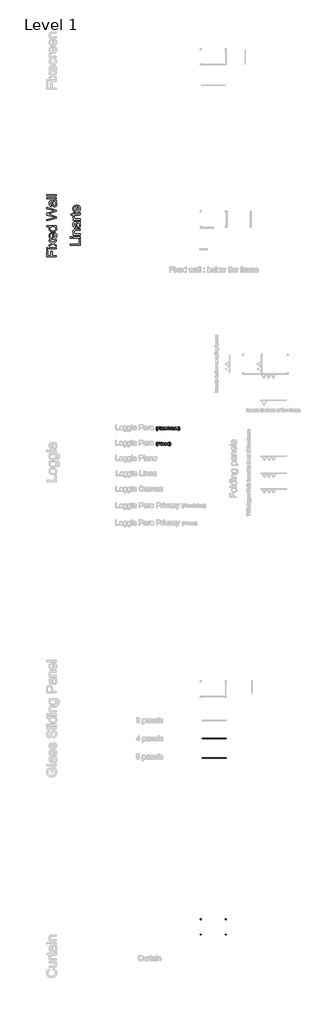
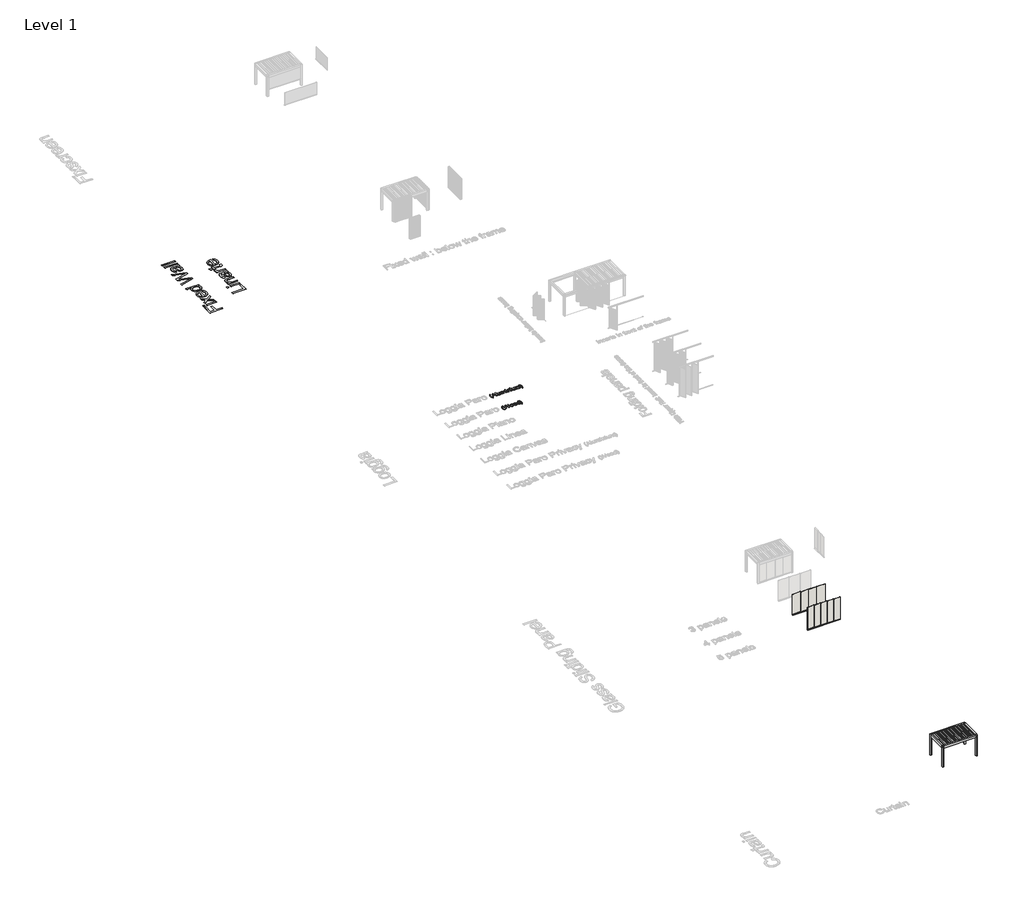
# One storey, part 14 of 80: 4 proxies, 2 walls.
"""IFC4 building model written with IfcOpenShell, lengths in millimetres."""

from ifc_helpers import new_model, si_unit, origin, origin_with_axes, place, context, project, spatial, polyline, outline, extrude, transform, mapped, element, save
from components import generic_models_e44263f4, wall_eb70c0bf, wall_4dabd9f5

model = new_model("IFC4")

# Units and contexts
model_context = context("Model", 3, world=origin())
ifc_project = project(units=[si_unit("LENGTHUNIT", "METRE", prefix="MILLI")], contexts=[model_context])

# Site, building, storey
site = spatial("IfcSite", under=ifc_project)
building = spatial("IfcBuilding", under=site)
storey = spatial("IfcBuildingStorey", under=building, Name="Level 1", Elevation=0.0)

# Proxies
placement = place(None, origin())
generic_models_shape = generic_models_e44263f4(model_context)
element("IfcBuildingElementProxy", 1, Name="Renson_Amani_Patio_Cover : Renson_Amani_Patio_Cover", ObjectType="Renson_Amani_Patio_Cover : Renson_Amani_Patio_Cover", at=placement, inside=storey, context=model_context, shape_type="MappedRepresentation", body=[
    mapped(generic_models_shape, transform((384965.9810446, -126169.1002025, 0.0), x_axis=(1.0, 0.0, 0.0), y_axis=(0.0, 1.0, 0.0), z_axis=(0.0, 0.0, 1.0))),
])
element("IfcBuildingElementProxy", 2, Name="1500mm", ObjectType="1500mm", at=placement, inside=storey, context=model_context, shape_type="SweptSolid", body=[
    extrude(outline(polyline([(360838.2731482, -23049.4947706), (359331.428496, -23049.4947706), (359331.428496, -22037.0835199), (359519.7840775, -22037.0835199), (359519.7840775, -22861.1391891), (359967.1285837, -22861.1391891), (359967.1285837, -22154.8057584), (360155.4841652, -22154.8057584), (360155.4841652, -22861.1391891), (360838.2731482, -22861.1391891), (360838.2731482, -23049.4947706)])), origin_with_axes(), (0.0, 0.0, 1.0), 5.0),
    extrude(outline(polyline([(359519.7840775, -21801.639043), (359331.428496, -21801.639043), (359331.428496, -21613.2834615), (359519.7840775, -21613.2834615), (359519.7840775, -21801.639043)])), origin_with_axes(), (0.0, 0.0, 1.0), 5.0),
    extrude(outline(polyline([(360838.2731482, -21801.639043), (359731.6841067, -21801.639043), (359731.6841067, -21613.2834615), (360838.2731482, -21613.2834615), (360838.2731482, -21801.639043)])), origin_with_axes(), (0.0, 0.0, 1.0), 5.0),
    extrude(outline(polyline([(360838.2731482, -21448.4723276), (360282.0355715, -21046.0094249), (359731.6841067, -21424.9278799), (359731.6841067, -21198.3125709), (359996.5591433, -21015.4752193), (360121.6390216, -20930.1265964), (360019.367827, -20856.1823154), (359731.6841067, -20647.9611061), (359731.6841067, -20421.3457971), (360282.0355715, -20819.3941159), (360838.2731482, -20436.0610769), (360838.2731482, -20662.6763859), (360503.8684146, -20893.3383969), (360442.8000034, -20935.6448264), (360838.2731482, -21221.8570186), (360838.2731482, -21448.4723276)])), origin_with_axes(), (0.0, 0.0, 1.0), 5.0),
    extrude(outline(polyline([(360508.6508806, -19496.4904612), (360532.1953282, -19311.8136997), (360606.1626019, -19340.129117), (360639.8525452, -19358.0030086), (360671.3466929, -19378.3543555), (360700.6450449, -19401.1831578), (360727.7476013, -19426.4894153), (360752.654362, -19454.2731282), (360775.3653271, -19484.5342964), (360795.6275776, -19517.1234678), (360813.1881947, -19551.8911904), (360828.0471784, -19588.8374643), (360840.2045287, -19627.9622893), (360856.4143291, -19712.7475928), (360861.8175959, -19806.2471012), (360859.4867186, -19866.2750961), (360852.4940866, -19923.1186125), (360840.8397, -19976.7776504), (360824.5235587, -20027.2522098), (360803.5456627, -20074.5422906), (360777.9060121, -20118.6478929), (360747.6046068, -20159.5690168), (360712.6414469, -20197.305662), (360673.4706366, -20231.1910427), (360630.5462804, -20260.5583726), (360583.8683782, -20285.4076517), (360533.43693, -20305.7388801), (360479.2519358, -20321.5520578), (360421.3133956, -20332.8471846), (360359.6213095, -20339.6242608), (360294.1756774, -20341.8832861), (360226.5026347, -20339.6012681), (360162.726842, -20332.7552141), (360102.8482991, -20321.3451241), (360046.8670061, -20305.3709981), (359994.782963, -20284.8328361), (359946.5961698, -20259.7306381), (359902.3066265, -20230.0644041), (359861.914333, -20195.8341341), (359825.8733938, -20157.9652812), (359794.6379132, -20117.3832986), (359768.2078911, -20074.0881863), (359746.5833275, -20028.0799443), (359729.7642226, -19979.3585725), (359717.7505762, -19927.9240711), (359710.5423883, -19873.7764399), (359708.1396591, -19816.915679), (359710.5366402, -19761.9144467), (359717.7275836, -19709.4826401), (359729.7124892, -19659.6202594), (359746.491357, -19612.3273045), (359768.0641872, -19567.6037753), (359794.4309795, -19525.449672), (359825.5917342, -19485.8649945), (359861.546451, -19448.8497429), (359901.846774, -19415.3523627), (359946.0443468, -19386.3213), (359994.1391695, -19361.7565546), (360046.1312421, -19341.6581265), (360102.0205646, -19326.0260158), (360161.807137, -19314.8602224), (360225.4909592, -19308.1607464), (360293.0720314, -19305.9275877), (360343.8397467, -19307.0312337), (360343.8397467, -20153.5277046), (360419.0026369, -20142.6177042), (360453.0834548, -20133.1188761), (360484.8305214, -20120.9241628), (360514.2438365, -20106.0335642), (360541.3234003, -20088.4470804), (360566.0692126, -20068.1647113), (360588.4812735, -20045.186457), (360625.6603476, -19993.5335257), (360652.2168292, -19935.8795192), (360668.1507181, -19872.2244377), (360673.4620144, -19802.5682812), (360671.0018036, -19750.4669936), (360663.621171, -19702.3204375), (360651.3201168, -19658.1286129), (360634.0986409, -19617.8915196), (360611.4968908, -19581.6091579), (360583.0550141, -19549.2815275), (360548.7730107, -19520.9086287), (360508.6508806, -19496.4904612)]), holes=[polyline([(360155.4841652, -20153.5277046), (360155.4841652, -19494.2831693), (360102.1872611, -19503.9630643), (360055.9720855, -19519.7589974), (360016.8386383, -19541.6709688), (359984.7869194, -19569.6989783), (359964.0935572, -19594.496524), (359946.1593099, -19621.0645018), (359930.9841776, -19649.4029118), (359918.5681603, -19679.5117538), (359902.0134705, -19745.0407342), (359896.4952406, -19817.651443), (359900.8983282, -19883.8816985), (359914.1075911, -19944.6167166), (359936.1230292, -19999.8564974), (359966.9446427, -20049.601041), (360005.1468886, -20091.3441511), (360049.3042243, -20122.5796318), (360099.4166499, -20143.3074829), (360155.4841652, -20153.5277046)])]), origin_with_axes(), (0.0, 0.0, 1.0), 5.0),
    extrude(outline(polyline([(360838.2731482, -18434.7830231), (360660.5861446, -18434.7830231), (360707.749766, -18461.4717123), (360748.6249045, -18491.1379463), (360783.2115602, -18523.7817252), (360811.5097331, -18559.403049), (360833.5194231, -18598.0019177), (360849.2406302, -18639.5783313), (360858.6733545, -18684.1322898), (360861.8175959, -18731.6637933), (360857.2650562, -18793.8358504), (360843.6074372, -18853.4327337), (360820.8447387, -18910.4544429), (360788.9769609, -18964.9009782), (360748.9582976, -19015.0708853), (360701.7429428, -19059.26271), (360647.3308964, -19097.4764522), (360585.7221585, -19129.712112), (360518.089353, -19155.3029033), (360445.6051036, -19173.58204), (360368.2694105, -19184.5495219), (360286.0822735, -19188.2053493), (360205.4011534, -19184.8369298), (360128.536809, -19174.7316712), (360055.4892404, -19157.8895736), (359986.2584474, -19134.310637), (359922.8677811, -19104.0063576), (359867.3405925, -19066.9882319), (359819.6768815, -19023.2562597), (359779.8766481, -18972.8104411), (359748.4917154, -18917.4327045), (359726.0739063, -18858.9049783), (359712.6232209, -18797.2272626), (359708.1396591, -18732.3995572), (359711.3471302, -18684.9887651), (359720.9695436, -18640.2451175), (359737.0068994, -18598.1686143), (359759.4591974, -18558.7592555), (359787.0388507, -18522.4539011), (359818.4582724, -18489.6894109), (359853.7174623, -18460.4657849), (359892.8164206, -18434.7830231), (359331.428496, -18434.7830231), (359331.428496, -18246.4274416), (360838.2731482, -18246.4274416), (360838.2731482, -18434.7830231)]), holes=[polyline([(360285.3465095, -18999.8497677), (360376.6847111, -18994.5384714), (360417.7409166, -18987.8993511), (360455.7218585, -18978.6045825), (360490.6275369, -18966.6541658), (360522.4579517, -18952.048101), (360551.213103, -18934.786388), (360576.8929907, -18914.8690269), (360619.1419385, -18870.4702686), (360649.3197585, -18822.2547346), (360667.4264504, -18770.2224249), (360673.4620144, -18714.3733395), (360667.7023619, -18658.2598389), (360650.4234044, -18606.5379296), (360621.625142, -18559.2076117), (360581.3075746, -18516.2688851), (360556.7485773, -18497.1706362), (360529.1488055, -18480.6188205), (360498.508259, -18466.613438), (360464.8269379, -18455.1544886), (360388.3419718, -18439.8758895), (360299.6939073, -18434.7830231), (360202.5040827, -18439.96786), (360159.0997554, -18446.4489061), (360119.1558182, -18455.5223706), (360082.6722709, -18467.1882536), (360049.6491137, -18481.446555), (360020.0863465, -18498.2972748), (359993.9839693, -18517.7404131), (359951.3326505, -18561.6218373), (359934.5767752, -18585.3645964), (359920.8674228, -18610.3087201), (359910.2045931, -18636.4542085), (359902.5882861, -18663.8010615), (359896.4952406, -18722.0988614), (359902.3468636, -18779.0515928), (359919.9017325, -18831.0839025), (359949.1598475, -18878.1957905), (359990.1212084, -18920.3872568), (360015.2147841, -18939.0112828), (360043.6825276, -18955.1521053), (360075.5244387, -18968.8097244), (360110.7405175, -18979.98414), (360191.2951782, -18994.8833608), (360285.3465095, -18999.8497677)])]), origin_with_axes(), (0.0, 0.0, 1.0), 5.0),
    extrude(outline(polyline([(360838.2731482, -17082.0809269), (359331.428496, -17493.0051155), (359331.428496, -17298.763422), (360321.766827, -17060.3758892), (360627.476765, -16986.7994901), (360357.0834985, -16908.0727432), (359331.428496, -16609.3525631), (359331.428496, -16329.3943648), (360074.9180082, -16112.3439876), (360212.7817859, -16062.7948814), (360350.8295046, -16019.3618133), (360489.0611643, -15982.0447834), (360627.476765, -15950.8437917), (360330.5959949, -15879.4746847), (359331.428496, -15638.8798598), (359331.428496, -15444.6381664), (360838.2731482, -15855.930237), (360838.2731482, -16057.1616883), (359675.7660435, -16418.4218076), (359513.5300836, -16468.8216409), (359708.875423, -16525.4754682), (360838.2731482, -16854.7298539), (360838.2731482, -17082.0809269)])), origin_with_axes(), (0.0, 0.0, 1.0), 5.0),
    extrude(outline(polyline([(360697.0064621, -14573.4936018), (360738.9220169, -14618.1567753), (360774.1697106, -14663.4867348), (360802.7495431, -14709.4834806), (360824.6615144, -14756.1470124), (360840.9173001, -14804.0061607), (360852.5285755, -14853.5897559), (360859.4953408, -14904.8977979), (360861.8175959, -14957.9302867), (360856.2303881, -15041.7958853), (360849.2463784, -15079.8573014), (360839.4687647, -15115.3377954), (360826.8975472, -15148.2373673), (360811.5327257, -15178.556017), (360793.3743004, -15206.2937446), (360772.4222711, -15231.4505501), (360749.2974388, -15253.8252481), (360724.6206043, -15273.2166529), (360698.3917677, -15289.6247647), (360670.6109289, -15303.0495835), (360641.278088, -15313.4911091), (360610.3932448, -15320.9493418), (360543.9675521, -15326.9159279), (360504.029363, -15324.6626507), (360465.8845986, -15317.902819), (360429.533259, -15306.6364329), (360394.975344, -15290.8634924), (360362.9696105, -15271.4232282), (360334.2748148, -15249.1548712), (360308.8909572, -15224.0584213), (360286.8180375, -15196.1338786), (360250.9495429, -15133.8238657), (360225.0138623, -15064.2481833), (360210.574494, -14996.4659257), (360196.6869486, -14901.2764595), (360182.4315213, -14797.6716926), (360166.888507, -14708.690235), (360150.0579058, -14634.3320867), (360131.9397175, -14574.5972478), (360090.00117, -14573.4936018), (360044.3378174, -14576.7355619), (360005.9401341, -14586.4614421), (359974.8081203, -14602.6712425), (359950.9417759, -14625.3649631), (359927.1214167, -14664.5903808), (359910.1068744, -14712.369055), (359899.898149, -14768.7009855), (359896.4952406, -14833.5861724), (359898.7600141, -14893.9188196), (359905.5543347, -14945.7901809), (359916.8782024, -14989.2002563), (359932.7316171, -15024.1490459), (359954.3561806, -15052.8668341), (359982.9934947, -15077.5839057), (360018.6435593, -15098.3002605), (360061.3063744, -15115.0158987), (360037.7619267, -15303.3714802), (359983.4993324, -15289.0355787), (359934.7549681, -15270.6759679), (359891.5288336, -15248.2926477), (359853.8209291, -15221.8856183), (359820.8724979, -15190.3167446), (359791.9247835, -15152.4478917), (359766.9777857, -15108.2790596), (359746.0315046, -15057.8102484), (359729.4538221, -15002.0646298), (359717.6126204, -14942.0653757), (359710.5078994, -14877.812486), (359708.1396591, -14809.3059607), (359710.2319879, -14742.3399412), (359716.5089744, -14681.9728051), (359726.9706187, -14628.2045522), (359741.6169206, -14581.0351827), (359759.4247084, -14540.0738218), (359779.3708104, -14504.9295949), (359801.4552264, -14475.6025021), (359825.6779565, -14452.0925434), (359852.636809, -14433.0316575), (359882.929592, -14417.0517833), (359916.5563056, -14404.1529209), (359953.5169498, -14394.3350701), (360018.632063, -14387.4372827), (360118.3280837, -14385.1380202), (360352.6689146, -14385.1380202), (360556.7974367, -14382.7467873), (360679.8999493, -14375.5730884), (360760.788003, -14361.4096316), (360838.2731482, -14338.0491249), (360838.2731482, -14526.4047064), (360806.8192376, -14543.1433372), (360772.7901531, -14556.57103), (360736.1858946, -14566.6877849), (360697.0064621, -14573.4936018)]), holes=[polyline([(360320.295299, -14573.4936018), (360336.5970699, -14630.4233405), (360351.6572391, -14700.0450081), (360378.0527723, -14877.3641298), (360392.4921406, -14975.0827848), (360408.5869779, -15039.4161487), (360429.4642811, -15081.5846224), (360442.8689813, -15098.5646757), (360458.2510472, -15112.8086067), (360475.0586559, -15124.0749928), (360492.7399843, -15132.1224114), (360511.2950324, -15136.9508626), (360530.7238003, -15138.5603464), (360559.9934115, -15135.0539711), (360586.733834, -15124.5348453), (360610.9450678, -15107.002969), (360632.6271129, -15082.4583421), (360650.4923823, -15051.1308909), (360663.253289, -15013.2505418), (360670.9098331, -14968.8172945), (360673.4620144, -14917.8311493), (360670.6454179, -14865.7758469), (360662.1956283, -14816.6636006), (360648.1126457, -14770.4944102), (360628.39647, -14727.2682758), (360604.6795776, -14688.2727843), (360578.5944449, -14654.7955227), (360550.1410718, -14626.8364911), (360519.3194584, -14604.3956894), (360491.7283088, -14591.3588712), (360458.2510472, -14582.0468582), (360418.8876737, -14576.4596504), (360373.6381883, -14574.5972478), (360320.295299, -14573.4936018)])]), origin_with_axes(), (0.0, 0.0, 1.0), 5.0),
    extrude(outline(polyline([(360838.2731482, -14126.1490956), (359331.428496, -14126.1490956), (359331.428496, -13937.7935141), (360838.2731482, -13937.7935141), (360838.2731482, -14126.1490956)])), origin_with_axes(), (0.0, 0.0, 1.0), 5.0),
    extrude(outline(polyline([(360838.2731482, -13655.2601418), (359331.428496, -13655.2601418), (359331.428496, -13466.9045603), (360838.2731482, -13466.9045603), (360838.2731482, -13655.2601418)])), origin_with_axes(), (0.0, 0.0, 1.0), 5.0),
    extrude(outline(polyline([(364497.5176836, -21295.4334176), (362990.6730313, -21295.4334176), (362990.6730313, -21107.0778361), (364309.1621021, -21107.0778361), (364309.1621021, -20353.65551), (364497.5176836, -20353.65551), (364497.5176836, -21295.4334176)])), origin_with_axes(), (0.0, 0.0, 1.0), 5.0),
    extrude(outline(polyline([(364497.5176836, -20165.2999285), (363390.9286421, -20165.2999285), (363390.9286421, -19976.9443469), (364497.5176836, -19976.9443469), (364497.5176836, -20165.2999285)])), origin_with_axes(), (0.0, 0.0, 1.0), 5.0),
    extrude(outline(polyline([(363179.0286129, -20165.2999285), (362990.6730313, -20165.2999285), (362990.6730313, -19976.9443469), (363179.0286129, -19976.9443469), (363179.0286129, -20165.2999285)])), origin_with_axes(), (0.0, 0.0, 1.0), 5.0),
    extrude(outline(polyline([(364497.5176836, -19694.4109746), (363390.9286421, -19694.4109746), (363390.9286421, -19506.0553931), (363545.4390801, -19506.0553931), (363503.7074662, -19474.9808608), (363467.5400676, -19440.6183832), (363436.9368841, -19402.9679603), (363411.8979158, -19362.029592), (363392.4231627, -19317.8032784), (363378.5126248, -19270.2890194), (363370.166302, -19219.4868152), (363367.3841944, -19165.3966656), (363369.6259753, -19117.9973698), (363376.351318, -19072.552447), (363387.5602226, -19029.0618974), (363403.2526889, -18987.5257209), (363422.5894863, -18949.5189123), (363444.7313839, -18916.6164663), (363469.6783817, -18888.8183831), (363497.4304797, -18866.1246625), (363527.953189, -18847.4891402), (363561.2120206, -18831.8656517), (363597.2069746, -18819.254197), (363635.9380509, -18809.6547762), (363707.3991284, -18802.2051658), (363818.0396385, -18799.7219624), (364497.5176836, -18799.7219624), (364497.5176836, -18988.0775439), (363843.4234962, -18988.0775439), (363746.0267379, -18993.5038033), (363707.8819736, -19000.2866276), (363676.7729524, -19009.7825816), (363650.5728565, -19022.715933), (363627.1548683, -19039.8109495), (363606.5189876, -19061.067631), (363588.6652145, -19086.4859776), (363574.2603351, -19115.1922695), (363563.9711356, -19146.3127871), (363557.7976158, -19179.8475302), (363555.7397759, -19215.7964989), (363560.3612935, -19272.9906528), (363574.2258462, -19326.1151122), (363597.333434, -19375.169877), (363629.684057, -19420.1549472), (363650.2452116, -19440.2878642), (363674.956535, -19457.7363923), (363703.8180272, -19472.5005314), (363736.8296881, -19484.5802816), (363773.9915177, -19493.9756429), (363815.3035162, -19500.6866152), (363910.3780193, -19506.0553931), (364497.5176836, -19506.0553931), (364497.5176836, -19694.4109746)])), origin_with_axes(), (0.0, 0.0, 1.0), 5.0),
    extrude(outline(polyline([(364356.2509974, -17834.399607), (364398.1665523, -17879.0627805), (364433.4142459, -17924.3927401), (364461.9940784, -17970.3894858), (364483.9060498, -18017.0530176), (364500.1618354, -18064.9121659), (364511.7731109, -18114.4957611), (364518.7398762, -18165.8038031), (364521.0621313, -18218.836292), (364515.4749235, -18302.7018906), (364508.4909137, -18340.7633067), (364498.7133001, -18376.2438007), (364486.1420825, -18409.1433725), (364470.7772611, -18439.4620223), (364452.6188357, -18467.1997499), (364431.6668065, -18492.3565554), (364408.5419742, -18514.7312533), (364383.8651397, -18534.1226582), (364357.6363031, -18550.53077), (364329.8554643, -18563.9555887), (364300.5226233, -18574.3971144), (364269.6377802, -18581.855347), (364203.2120874, -18587.8219331), (364163.2738983, -18585.5686559), (364125.129134, -18578.8088243), (364088.7777943, -18567.5424382), (364054.2198794, -18551.7694976), (364022.2141458, -18532.3292334), (363993.5193502, -18510.0608764), (363968.1354925, -18484.9644266), (363946.0625728, -18457.0398839), (363910.1940783, -18394.7298709), (363884.2583976, -18325.1541886), (363869.8190293, -18257.371931), (363855.931484, -18162.1824647), (363841.6760567, -18058.5776978), (363826.1330424, -17969.5962402), (363809.3024411, -17895.238092), (363791.1842529, -17835.503253), (363749.2457054, -17834.399607), (363703.5823527, -17837.6415671), (363665.1846695, -17847.3674474), (363634.0526557, -17863.5772478), (363610.1863112, -17886.2709683), (363586.365952, -17925.4963861), (363569.3514098, -17973.2750602), (363559.1426844, -18029.6069907), (363555.7397759, -18094.4921776), (363558.0045495, -18154.8248248), (363564.7988701, -18206.6961861), (363576.1227377, -18250.1062616), (363591.9761525, -18285.0550511), (363613.600716, -18313.7728394), (363642.2380301, -18338.4899109), (363677.8880946, -18359.2062658), (363720.5509098, -18375.9219039), (363697.0064621, -18564.2774855), (363642.7438678, -18549.941584), (363593.9995034, -18531.5819731), (363550.773369, -18509.198653), (363513.0654645, -18482.7916235), (363480.1170333, -18451.2227498), (363451.1693188, -18413.3538969), (363426.222321, -18369.1850649), (363405.2760399, -18318.7162537), (363388.6983575, -18262.9706351), (363376.8571558, -18202.9713809), (363369.7524348, -18138.7184912), (363367.3841944, -18070.2119659), (363369.4765233, -18003.2459465), (363375.7535098, -17942.8788103), (363386.215154, -17889.1105575), (363400.861456, -17841.9411879), (363418.6692438, -17800.979827), (363438.6153457, -17765.8356002), (363460.6997617, -17736.5085074), (363484.9224919, -17712.9985486), (363511.8813443, -17693.9376627), (363542.1741274, -17677.9577886), (363575.800841, -17665.0589261), (363612.7614852, -17655.2410754), (363677.8765983, -17648.343288), (363777.572619, -17646.0440255), (364011.91345, -17646.0440255), (364216.041972, -17643.6527925), (364339.1444847, -17636.4790936), (364420.0325384, -17622.3156368), (364497.5176836, -17598.9551301), (364497.5176836, -17787.3107116), (364466.063773, -17804.0493424), (364432.0346884, -17817.4770352), (364395.4304299, -17827.5937901), (364356.2509974, -17834.399607)]), holes=[polyline([(363979.5398344, -17834.399607), (363995.8416053, -17891.3293458), (364010.9017745, -17960.9510134), (364037.2973076, -18138.270135), (364051.7366759, -18235.98879), (364067.8315132, -18300.3221539), (364088.7088165, -18342.4906276), (364102.1135166, -18359.4706809), (364117.4955826, -18373.714612), (364134.3031912, -18384.9809981), (364151.9845196, -18393.0284167), (364170.5395678, -18397.8568679), (364189.9683356, -18399.4663516), (364219.2379469, -18395.9599763), (364245.9783694, -18385.4408505), (364270.1896032, -18367.9089742), (364291.8716483, -18343.3643473), (364309.7369177, -18312.0368962), (364322.4978244, -18274.156547), (364330.1543684, -18229.7232998), (364332.7065498, -18178.7371545), (364329.8899532, -18126.6818522), (364321.4401636, -18077.5696058), (364307.357181, -18031.4004154), (364287.6410053, -17988.174281), (364263.924113, -17949.1787895), (364237.8389802, -17915.701528), (364209.3856072, -17887.7424963), (364178.5639938, -17865.3016946), (364150.9728441, -17852.2648764), (364117.4955826, -17842.9528634), (364078.1322091, -17837.3656556), (364032.8827237, -17835.503253), (363979.5398344, -17834.399607)])]), origin_with_axes(), (0.0, 0.0, 1.0), 5.0),
    extrude(outline(polyline([(364497.5176836, -17387.0551009), (363390.9286421, -17387.0551009), (363390.9286421, -17222.243967), (363554.63613, -17222.243967), (363502.3049161, -17191.2039237), (363459.7225752, -17161.3594968), (363426.8891071, -17132.7106865), (363403.8045119, -17105.2574926), (363387.870623, -17077.7583134), (363376.4892738, -17048.9715473), (363369.6604643, -17018.8971942), (363367.3841944, -16987.5352541), (363371.0170291, -16940.8142407), (363381.9155332, -16893.7253454), (363400.0797067, -16846.268568), (363425.5095496, -16798.4439086), (363594.3673854, -16861.3517298), (363577.4678063, -16894.4611093), (363565.3966783, -16927.5704889), (363558.1540015, -16960.6798685), (363555.7397759, -16993.789248), (363558.062031, -17022.6564884), (363565.0287963, -17050.0292081), (363576.6400718, -17075.9074072), (363592.8958575, -17100.2910856), (363613.2673229, -17122.2605385), (363637.2256379, -17140.8960609), (363664.7708023, -17156.1976526), (363695.9028161, -17168.1653138), (363747.3143249, -17181.5240287), (363801.1170667, -17191.065968), (363857.3110415, -17196.7911315), (363915.8962492, -17198.6995194), (364497.5176836, -17198.6995194), (364497.5176836, -17387.0551009)])), origin_with_axes(), (0.0, 0.0, 1.0), 5.0),
    extrude(outline(polyline([(364340.4320717, -16280.4660594), (364503.0359135, -16256.9216117), (364516.5555768, -16331.5096862), (364521.0621313, -16397.8204159), (364519.1077582, -16445.8979941), (364513.2446389, -16488.2274162), (364503.4727734, -16524.8086821), (364489.7921617, -16555.6417918), (364472.9385678, -16581.5314872), (364453.6477557, -16603.2825102), (364431.9197253, -16620.8948607), (364407.7544768, -16634.3685388), (364375.3578686, -16644.3473379), (364328.9357593, -16651.4750515), (364268.488149, -16655.7516797), (364194.0150376, -16657.1772225), (363579.2842236, -16657.1772225), (363579.2842236, -16798.4439086), (363425.5095496, -16798.4439086), (363390.9286421, -16798.4439086), (363390.9286421, -16657.1772225), (363122.0069036, -16657.1772225), (363011.2744231, -16468.8216409), (363390.9286421, -16468.8216409), (363390.9286421, -16280.4660594), (363579.2842236, -16280.4660594), (363579.2842236, -16468.8216409), (364188.4968076, -16468.8216409), (364250.4849238, -16466.3384375), (364285.6176544, -16458.8888271), (364305.0694149, -16445.8750015), (364320.0146209, -16426.6991525), (364329.5335675, -16399.5218701), (364332.7065498, -16362.5037443), (364340.4320717, -16280.4660594)])), origin_with_axes(), (0.0, 0.0, 1.0), 5.0),
    extrude(outline(polyline([(364167.8954159, -15317.350996), (364191.4398636, -15132.6742344), (364265.4071373, -15160.9896518), (364299.0970806, -15178.8635434), (364330.5912283, -15199.2148903), (364359.8895803, -15222.0436926), (364386.9921367, -15247.3499501), (364411.8988974, -15275.133663), (364434.6098624, -15305.3948312), (364454.8721129, -15337.9840026), (364472.43273, -15372.7517252), (364487.2917138, -15409.697999), (364499.4490641, -15448.822824), (364515.6588645, -15533.6081276), (364521.0621313, -15627.107636), (364518.731254, -15687.1356309), (364511.738622, -15743.9791473), (364500.0842353, -15797.6381852), (364483.768094, -15848.1127446), (364462.7901981, -15895.4028254), (364437.1505474, -15939.5084277), (364406.8491422, -15980.4295515), (364371.8859822, -16018.1661968), (364332.715172, -16052.0515775), (364289.7908158, -16081.4189074), (364243.1129135, -16106.2681865), (364192.6814653, -16126.5994149), (364138.4964712, -16142.4125925), (364080.557931, -16153.7077194), (364018.8658449, -16160.4847956), (363953.4202127, -16162.7438209), (363885.7471701, -16160.4618029), (363821.9713773, -16153.6157489), (363762.0928345, -16142.2056589), (363706.1115415, -16126.2315329), (363654.0274984, -16105.6933709), (363605.8407052, -16080.5911729), (363561.5511618, -16050.9249389), (363521.1588684, -16016.6946689), (363485.1179292, -15978.825816), (363453.8824485, -15938.2438334), (363427.4524264, -15894.9487211), (363405.8278629, -15848.9404791), (363389.0087579, -15800.2191073), (363376.9951115, -15748.7846059), (363369.7869237, -15694.6369747), (363367.3841944, -15637.7762138), (363369.7811755, -15582.7749815), (363376.9721189, -15530.3431749), (363388.9570245, -15480.4807942), (363405.7358924, -15433.1878393), (363427.3087225, -15388.4643101), (363453.6755149, -15346.3102068), (363484.8362695, -15306.7255293), (363520.7909864, -15269.7102776), (363561.0913093, -15236.2128975), (363605.2888822, -15207.1818348), (363653.3837049, -15182.6170894), (363705.3757775, -15162.5186613), (363761.2651, -15146.8865506), (363821.0516723, -15135.7207572), (363884.7354946, -15129.0212812), (363952.3165667, -15126.7881225), (364003.0842821, -15127.8917685), (364003.0842821, -15974.3882394), (364078.2471722, -15963.478239), (364112.3279902, -15953.9794109), (364144.0750567, -15941.7846976), (364173.4883719, -15926.894099), (364200.5679356, -15909.3076152), (364225.3137479, -15889.0252461), (364247.7258089, -15866.0469918), (364284.904883, -15814.3940604), (364311.4613645, -15756.740054), (364327.3952534, -15693.0849725), (364332.7065498, -15623.428816), (364330.2463389, -15571.3275284), (364322.8657064, -15523.1809723), (364310.5646522, -15478.9891477), (364293.3431763, -15438.7520544), (364270.7414262, -15402.4696927), (364242.2995494, -15370.1420623), (364208.017546, -15341.7691635), (364167.8954159, -15317.350996)]), holes=[polyline([(363814.7287005, -15974.3882394), (363814.7287005, -15315.1437041), (363761.4317965, -15324.823599), (363715.2166208, -15340.6195322), (363676.0831736, -15362.5315036), (363644.0314548, -15390.5595131), (363623.3380926, -15415.3570588), (363605.4038453, -15441.9250366), (363590.228713, -15470.2634466), (363577.8126956, -15500.3722886), (363561.2580059, -15565.901269), (363555.7397759, -15638.5119778), (363560.1428636, -15704.7422333), (363573.3521265, -15765.4772514), (363595.3675646, -15820.7170322), (363626.189178, -15870.4615758), (363664.391424, -15912.2046859), (363708.5487597, -15943.4401666), (363758.6611852, -15964.1680177), (363814.7287005, -15974.3882394)])]), origin_with_axes(), (0.0, 0.0, 1.0), 5.0),
])
element("IfcBuildingElementProxy", 3, Name="500mm Arial", ObjectType="500mm Arial", at=placement, inside=storey, context=model_context, shape_type="SweptSolid", body=[
    extrude(outline(polyline([(376309.8198995, -49817.747949), (376284.4743629, -49784.952802), (376261.1675056, -49749.4751821), (376220.6698293, -49670.4725236), (376204.7359404, -49627.9055111), (376193.3545912, -49584.5720778), (376186.5257817, -49540.4722236), (376184.2495118, -49495.6059486), (376185.950966, -49456.1735972), (376191.0553287, -49417.5843088), (376199.5625999, -49379.8380832), (376211.4727795, -49342.9349206), (376229.5756393, -49300.6131627), (376252.0011126, -49258.3833754), (376278.7491993, -49216.2455585), (376309.8198995, -49174.1997121), (376356.9087949, -49174.1997121), (376298.170303, -49273.6504782), (376278.1207342, -49320.8620009), (376262.8536314, -49370.0355609), (376250.9894371, -49432.8514116), (376247.0347057, -49495.9738306), (376248.7514883, -49536.2224201), (376253.9018362, -49576.4633454), (376262.4857494, -49616.6966066), (376274.503228, -49656.9222035), (376308.8388808, -49737.3504047), (376356.9087949, -49817.747949), (376309.8198995, -49817.747949)])), origin_with_axes(), (0.0, 0.0, 1.0), 5.0),
    extrude(outline(polyline([(376369.0489007, -49676.4812629), (376569.5445881, -49174.1997121), (376623.0101047, -49174.1997121), (376823.5057921, -49676.4812629), (376757.1644056, -49676.4812629), (376699.6521871, -49519.5182783), (376492.7798784, -49519.5182783), (376435.3902872, -49676.4812629), (376369.0489007, -49676.4812629)]), holes=[polyline([(376515.8338168, -49456.7330844), (376676.720876, -49456.7330844), (376631.4713906, -49333.2473614), (376596.2773464, -49236.984906), (376565.0073768, -49322.4561562), (376515.8338168, -49456.7330844)])]), origin_with_axes(), (0.0, 0.0, 1.0), 5.0),
    extrude(outline(polyline([(376882.7347933, -49676.4812629), (376882.7347933, -49174.1997121), (376945.5199872, -49174.1997121), (376945.5199872, -49676.4812629), (376882.7347933, -49676.4812629)])), origin_with_axes(), (0.0, 0.0, 1.0), 5.0),
    extrude(outline(polyline([(377275.1422548, -49676.4812629), (377275.1422548, -49613.0829324), (377252.4255416, -49644.2532673), (377225.9686948, -49666.5177922), (377195.7717144, -49679.8765071), (377161.8346003, -49684.3294121), (377131.2544095, -49681.2024152), (377102.7895401, -49671.8214243), (377078.9078672, -49657.7192811), (377062.077266, -49640.4288274), (377050.7495662, -49619.4288968), (377043.3765979, -49594.1983233), (377039.6977779, -49535.8277134), (377039.6977779, -49307.6182491), (377102.4829718, -49307.6182491), (377102.4829718, -49506.2745265), (377106.2844191, -49570.2859936), (377115.4354837, -49591.6384777), (377131.1164537, -49607.8712708), (377152.2849969, -49618.1259814), (377177.8987808, -49621.5442183), (377204.9840927, -49618.0493393), (377230.3219651, -49607.5647025), (377251.2145967, -49591.0559979), (377264.9641863, -49569.488916), (377272.5977377, -49539.9510574), (377275.1422548, -49499.5300232), (377275.1422548, -49307.6182491), (377337.9274487, -49307.6182491), (377337.9274487, -49676.4812629), (377275.1422548, -49676.4812629)])), origin_with_axes(), (0.0, 0.0, 1.0), 5.0),
    extrude(outline(polyline([(377424.2570902, -49676.4812629), (377424.2570902, -49307.6182491), (377487.0422841, -49307.6182491), (377487.0422841, -49368.3187783), (377505.9268931, -49340.4363887), (377530.2071048, -49318.5933952), (377559.0551846, -49304.4759237), (377591.643398, -49299.7700998), (377626.5615307, -49304.5678942), (377654.5512192, -49318.9612772), (377675.4591793, -49341.9998872), (377689.1321267, -49372.7333622), (377712.0174525, -49340.8119349), (377738.1217458, -49318.0109154), (377767.4450065, -49304.3303037), (377799.9872346, -49299.7700998), (377825.1220055, -49301.6669914), (377847.1834289, -49307.357666), (377866.1715048, -49316.8421237), (377882.0862332, -49330.1203644), (377894.667031, -49347.3456724), (377903.6533152, -49368.6713318), (377909.0450857, -49394.0973427), (377910.8423425, -49423.6237049), (377910.8423425, -49676.4812629), (377848.0571487, -49676.4812629), (377848.0571487, -49450.6017178), (377846.6009491, -49419.285763), (377842.2323504, -49398.1785335), (377834.046976, -49383.7238368), (377821.1404493, -49372.3654802), (377804.5397743, -49365.0078403), (377785.2719548, -49362.5552937), (377767.4794954, -49364.1264564), (377751.2581987, -49368.8399444), (377736.6080646, -49376.6957579), (377723.5290933, -49387.6938967), (377712.772377, -49402.1562576), (377705.0890083, -49420.4047374), (377700.478987, -49442.4393361), (377698.9423133, -49468.2600536), (377698.9423133, -49676.4812629), (377636.1571194, -49676.4812629), (377636.1571194, -49443.6119599), (377632.5242847, -49408.1113474), (377621.6257806, -49382.7888034), (377613.1989837, -49373.9366429), (377602.4499316, -49367.6136711), (377573.9850623, -49362.5552937), (377549.7968211, -49365.9275453), (377527.5093035, -49376.0443002), (377509.1152038, -49392.6603036), (377496.6072159, -49415.530301), (377489.433517, -49447.2601231), (377487.0422841, -49490.4556007), (377487.0422841, -49676.4812629), (377424.2570902, -49676.4812629)])), origin_with_axes(), (0.0, 0.0, 1.0), 5.0),
    extrude(outline(polyline([(378005.0201333, -49676.4812629), (378005.0201333, -49307.6182491), (378067.8053271, -49307.6182491), (378067.8053271, -49676.4812629), (378005.0201333, -49676.4812629)])), origin_with_axes(), (0.0, 0.0, 1.0), 5.0),
    extrude(outline(polyline([(378005.0201333, -49236.984906), (378005.0201333, -49174.1997121), (378067.8053271, -49174.1997121), (378067.8053271, -49236.984906), (378005.0201333, -49236.984906)])), origin_with_axes(), (0.0, 0.0, 1.0), 5.0),
    extrude(outline(polyline([(378161.9831179, -49676.4812629), (378161.9831179, -49307.6182491), (378224.7683117, -49307.6182491), (378224.7683117, -49359.1217284), (378246.5806484, -49333.1553909), (378272.7769121, -49314.608007), (378303.3571029, -49303.4795766), (378338.3212209, -49299.7700998), (378369.2692937, -49302.759141), (378397.6115358, -49311.7262647), (378421.247954, -49325.5524963), (378438.0785553, -49343.1188616), (378449.4982255, -49364.3793752), (378456.9018507, -49389.288052), (378460.2127886, -49449.9885812), (378460.2127886, -49676.4812629), (378397.4275948, -49676.4812629), (378397.4275948, -49458.4498671), (378395.6188416, -49425.984281), (378390.1925822, -49402.8996858), (378380.1831263, -49386.3603244), (378364.6247836, -49373.5304399), (378344.6825137, -49365.2990802), (378321.5212765, -49362.5552937), (378302.4565585, -49364.0957995), (378284.7484054, -49368.7173171), (378268.3968171, -49376.4198464), (378253.4017937, -49387.2033873), (378240.8746453, -49402.2942134), (378231.9266822, -49422.9185977), (378226.5579043, -49449.0765404), (378224.7683117, -49480.7680415), (378224.7683117, -49676.4812629), (378161.9831179, -49676.4812629)])), origin_with_axes(), (0.0, 0.0, 1.0), 5.0),
    extrude(outline(polyline([(378546.5424302, -49236.984906), (378546.5424302, -49174.1997121), (378609.327624, -49174.1997121), (378609.327624, -49236.984906), (378546.5424302, -49236.984906)])), origin_with_axes(), (0.0, 0.0, 1.0), 5.0),
    extrude(outline(polyline([(378546.5424302, -49676.4812629), (378546.5424302, -49307.6182491), (378609.327624, -49307.6182491), (378609.327624, -49676.4812629), (378546.5424302, -49676.4812629)])), origin_with_axes(), (0.0, 0.0, 1.0), 5.0),
    extrude(outline(polyline([(378938.9498917, -49676.4812629), (378938.9498917, -49613.0829324), (378916.2331785, -49644.2532673), (378889.7763317, -49666.5177922), (378859.5793512, -49679.8765071), (378825.6422372, -49684.3294121), (378795.0620463, -49681.2024152), (378766.597177, -49671.8214243), (378742.7155041, -49657.7192811), (378725.8849028, -49640.4288274), (378714.5572031, -49619.4288968), (378707.1842347, -49594.1983233), (378703.5054148, -49535.8277134), (378703.5054148, -49307.6182491), (378766.2906086, -49307.6182491), (378766.2906086, -49506.2745265), (378770.0920559, -49570.2859936), (378779.2431205, -49591.6384777), (378794.9240906, -49607.8712708), (378816.0926337, -49618.1259814), (378841.7064176, -49621.5442183), (378868.7917295, -49618.0493393), (378894.1296019, -49607.5647025), (378915.0222336, -49591.0559979), (378928.7718232, -49569.488916), (378936.4053746, -49539.9510574), (378938.9498917, -49499.5300232), (378938.9498917, -49307.6182491), (379001.7350855, -49307.6182491), (379001.7350855, -49676.4812629), (378938.9498917, -49676.4812629)])), origin_with_axes(), (0.0, 0.0, 1.0), 5.0),
    extrude(outline(polyline([(379088.0647271, -49676.4812629), (379088.0647271, -49307.6182491), (379150.8499209, -49307.6182491), (379150.8499209, -49368.3187783), (379169.73453, -49340.4363887), (379194.0147417, -49318.5933952), (379222.8628215, -49304.4759237), (379255.4510349, -49299.7700998), (379290.3691676, -49304.5678942), (379318.3588561, -49318.9612772), (379339.2668161, -49341.9998872), (379352.9397636, -49372.7333622), (379375.8250894, -49340.8119349), (379401.9293826, -49318.0109154), (379431.2526433, -49304.3303037), (379463.7948715, -49299.7700998), (379488.9296424, -49301.6669914), (379510.9910658, -49307.357666), (379529.9791417, -49316.8421237), (379545.8938701, -49330.1203644), (379558.4746679, -49347.3456724), (379567.460952, -49368.6713318), (379572.8527225, -49394.0973427), (379574.6499794, -49423.6237049), (379574.6499794, -49676.4812629), (379511.8647855, -49676.4812629), (379511.8647855, -49450.6017178), (379510.408586, -49419.285763), (379506.0399873, -49398.1785335), (379497.8546129, -49383.7238368), (379484.9480862, -49372.3654802), (379468.3474112, -49365.0078403), (379449.0795917, -49362.5552937), (379431.2871323, -49364.1264564), (379415.0658355, -49368.8399444), (379400.4157015, -49376.6957579), (379387.3367301, -49387.6938967), (379376.5800139, -49402.1562576), (379368.8966451, -49420.4047374), (379364.2866239, -49442.4393361), (379362.7499501, -49468.2600536), (379362.7499501, -49676.4812629), (379299.9647563, -49676.4812629), (379299.9647563, -49443.6119599), (379296.3319216, -49408.1113474), (379285.4334175, -49382.7888034), (379277.0066205, -49373.9366429), (379266.2575685, -49367.6136711), (379237.7926991, -49362.5552937), (379213.6044579, -49365.9275453), (379191.3169404, -49376.0443002), (379172.9228406, -49392.6603036), (379160.4148528, -49415.530301), (379153.2411539, -49447.2601231), (379150.8499209, -49490.4556007), (379150.8499209, -49676.4812629), (379088.0647271, -49676.4812629)])), origin_with_axes(), (0.0, 0.0, 1.0), 5.0),
    extrude(outline(polyline([(379684.5240686, -49817.747949), (379637.4351732, -49817.747949), (379685.5050872, -49737.3504047), (379719.8407401, -49656.9222035), (379731.8582186, -49616.6966066), (379740.4421319, -49576.4633454), (379745.5924798, -49536.2224201), (379747.3092624, -49495.9738306), (379743.354531, -49433.3112641), (379731.4903366, -49371.1392069), (379716.4991453, -49321.8736764), (379696.5415471, -49274.6314968), (379637.4351732, -49174.1997121), (379684.5240686, -49174.1997121), (379715.5947688, -49216.2455585), (379742.3428555, -49258.3833754), (379764.7683288, -49300.6131627), (379782.8711886, -49342.9349206), (379794.7813682, -49379.8380832), (379803.2886394, -49417.5843088), (379808.393002, -49456.1735972), (379810.0944563, -49495.6059486), (379807.8066901, -49540.4722236), (379800.9433916, -49584.5720778), (379789.5045609, -49627.9055111), (379773.4901978, -49670.4725236), (379732.9465362, -49749.4751821), (379684.5240686, -49817.747949)])), origin_with_axes(), (0.0, 0.0, 1.0), 5.0),
])
element("IfcBuildingElementProxy", 4, Name="500mm Arial", ObjectType="500mm Arial", at=placement, inside=storey, context=model_context, shape_type="SweptSolid", body=[
    extrude(outline(polyline([(376308.305181, -52186.2529211), (376282.9596444, -52153.4577741), (376259.6527871, -52117.9801541), (376219.1551108, -52038.9774957), (376203.2212219, -51996.4104832), (376191.8398727, -51953.0770498), (376185.0110632, -51908.9771956), (376182.7347933, -51864.1109206), (376184.4362475, -51824.6785693), (376189.5406102, -51786.0892808), (376198.0478814, -51748.3430553), (376209.958061, -51711.4398926), (376228.0609208, -51669.1181348), (376250.4863941, -51626.8883474), (376277.2344808, -51584.7505306), (376308.305181, -51542.7046842), (376355.3940764, -51542.7046842), (376296.6555845, -51642.1554502), (376276.6060158, -51689.3669729), (376261.338913, -51738.540533), (376249.4747186, -51801.3563836), (376245.5199872, -51864.4788026), (376247.2367698, -51904.7273922), (376252.3871177, -51944.9683175), (376260.971031, -51985.2015786), (376272.9885095, -52025.4271755), (376307.3241624, -52105.8553767), (376355.3940764, -52186.2529211), (376308.305181, -52186.2529211)])), origin_with_axes(), (0.0, 0.0, 1.0), 5.0),
    extrude(outline(polyline([(376515.9132536, -52044.9862349), (376378.9385241, -51542.7046842), (376443.6857552, -51542.7046842), (376523.1482662, -51872.8174612), (376547.6737325, -51974.7207739), (376573.9159815, -51884.589685), (376673.4893749, -51542.7046842), (376766.8087743, -51542.7046842), (376839.1589, -51790.5345216), (376870.1529581, -51882.5050204), (376892.9922987, -51974.7207739), (376916.782001, -51875.7605172), (376996.980276, -51542.7046842), (377061.7275071, -51542.7046842), (376924.6301503, -52044.9862349), (376857.5529998, -52044.9862349), (376737.13296, -51657.4838667), (376720.3330156, -51603.4052134), (376701.4484065, -51668.5203265), (376591.6969446, -52044.9862349), (376515.9132536, -52044.9862349)])), origin_with_axes(), (0.0, 0.0, 1.0), 5.0),
    extrude(outline(polyline([(377100.9682533, -51860.554728), (377104.3634975, -51812.7837181), (377114.5492303, -51771.6192557), (377131.5254515, -51737.0613408), (377155.2921612, -51709.1099733), (377179.2198193, -51691.244704), (377205.6306809, -51678.4837972), (377234.5247459, -51670.8272532), (377265.9020144, -51668.2750719), (377300.5404036, -51671.3829083), (377331.8601905, -51680.7064176), (377359.8613753, -51696.2455998), (377384.5439579, -51718.0004549), (377404.6893292, -51745.2352188), (377419.0788802, -51777.2141277), (377427.7126108, -51813.9371814), (377430.590521, -51855.4043801), (377425.5014867, -51918.8333674), (377419.1401939, -51944.8686828), (377410.2343839, -51967.1178793), (377398.8951878, -51986.3358814), (377385.2337366, -52003.2776137), (377369.2500304, -52017.9430762), (377350.944069, -52030.3322688), (377310.2164665, -52047.2088553), (377265.9020144, -52052.8343842), (377230.7577876, -52049.738044), (377199.1467607, -52040.4490237), (377171.0689339, -52024.967323), (377146.524307, -52003.2929422), (377126.5935335, -51975.793763), (377112.3572667, -51942.8376676), (377103.8155066, -51904.4246559), (377100.9682533, -51860.554728)]), holes=[polyline([(377163.7534471, -51860.4321007), (377165.5698645, -51890.8858321), (377171.0191165, -51917.2545405), (377180.1012033, -51939.538226), (377192.8161247, -51957.7368884), (377208.282497, -51971.8735205), (377225.618936, -51981.9711148), (377244.8254418, -51988.0296715), (377265.9020144, -51990.0491903), (377286.8712882, -51988.0181751), (377306.0011519, -51981.9251296), (377323.2916057, -51971.7700537), (377338.7426495, -51957.5529474), (377351.457571, -51939.1741761), (377360.5396577, -51916.534105), (377365.9889098, -51889.6327341), (377367.8053271, -51858.4700634), (377365.9774135, -51828.9820222), (377360.4936725, -51803.3030925), (377351.3541041, -51781.4332743), (377338.5587085, -51763.3725676), (377323.0501831, -51749.2359355), (377305.7712257, -51739.1383412), (377286.7218361, -51733.0797846), (377265.9020144, -51731.0602657), (377244.8254418, -51733.0721204), (377225.618936, -51739.1076844), (377208.282497, -51749.1669577), (377192.8161247, -51763.2499403), (377180.1012033, -51781.3949533), (377171.0191165, -51803.6403177), (377165.5698645, -51829.9860335), (377163.7534471, -51860.4321007)])]), origin_with_axes(), (0.0, 0.0, 1.0), 5.0),
    extrude(outline(polyline([(377485.5275656, -51860.554728), (377488.9228098, -51812.7837181), (377499.1085426, -51771.6192557), (377516.0847638, -51737.0613408), (377539.8514735, -51709.1099733), (377563.7791316, -51691.244704), (377590.1899932, -51678.4837972), (377619.0840582, -51670.8272532), (377650.4613267, -51668.2750719), (377685.0997158, -51671.3829083), (377716.4195028, -51680.7064176), (377744.4206876, -51696.2455998), (377769.1032702, -51718.0004549), (377789.2486415, -51745.2352188), (377803.6381925, -51777.2141277), (377812.2719231, -51813.9371814), (377815.1498332, -51855.4043801), (377810.060799, -51918.8333674), (377803.6995061, -51944.8686828), (377794.7936962, -51967.1178793), (377783.4545001, -51986.3358814), (377769.7930489, -52003.2776137), (377753.8093427, -52017.9430762), (377735.5033813, -52030.3322688), (377694.7757787, -52047.2088553), (377650.4613267, -52052.8343842), (377615.3170999, -52049.738044), (377583.706073, -52040.4490237), (377555.6282462, -52024.967323), (377531.0836193, -52003.2929422), (377511.1528458, -51975.793763), (377496.916579, -51942.8376676), (377488.3748189, -51904.4246559), (377485.5275656, -51860.554728)]), holes=[polyline([(377548.3127594, -51860.4321007), (377550.1291768, -51890.8858321), (377555.5784288, -51917.2545405), (377564.6605156, -51939.538226), (377577.375437, -51957.7368884), (377592.8418092, -51971.8735205), (377610.1782483, -51981.9711148), (377629.3847541, -51988.0296715), (377650.4613267, -51990.0491903), (377671.4306005, -51988.0181751), (377690.5604642, -51981.9251296), (377707.850918, -51971.7700537), (377723.3019618, -51957.5529474), (377736.0168832, -51939.1741761), (377745.09897, -51916.534105), (377750.5482221, -51889.6327341), (377752.3646394, -51858.4700634), (377750.5367257, -51828.9820222), (377745.0529848, -51803.3030925), (377735.9134164, -51781.4332743), (377723.1180208, -51763.3725676), (377707.6094954, -51749.2359355), (377690.330538, -51739.1383412), (377671.2811484, -51733.0797846), (377650.4613267, -51731.0602657), (377629.3847541, -51733.0721204), (377610.1782483, -51739.1076844), (377592.8418092, -51749.1669577), (377577.375437, -51763.2499403), (377564.6605156, -51781.3949533), (377555.5784288, -51803.6403177), (377550.1291768, -51829.9860335), (377548.3127594, -51860.4321007)])]), origin_with_axes(), (0.0, 0.0, 1.0), 5.0),
    extrude(outline(polyline([(378113.379504, -52044.9862349), (378113.379504, -51985.7572337), (378094.5945296, -52015.103487), (378071.8394954, -52036.0650966), (378045.1144013, -52048.6420623), (378014.4192473, -52052.8343842), (377973.8296005, -52046.7643312), (377936.673519, -52028.5541725), (377905.2196084, -51999.4761665), (377881.7364744, -51960.8025717), (377867.1131651, -51914.0968867), (377862.2387286, -51860.92261), (377866.7299547, -51808.4074552), (377880.2036327, -51760.9813347), (377890.3050592, -51739.8511126), (377902.6444344, -51721.3420497), (377917.2217585, -51705.454146), (377934.0370314, -51692.1874016), (377972.0055189, -51674.2531543), (378014.1739926, -51668.2750719), (378044.8921392, -51672.5517001), (378072.0540932, -51685.3815847), (378095.0773747, -51705.047943), (378113.379504, -51729.8339924), (378113.379504, -51542.7046842), (378176.1646978, -51542.7046842), (378176.1646978, -52044.9862349), (378113.379504, -52044.9862349)]), holes=[polyline([(377925.0239225, -51860.6773554), (377926.7943546, -51891.1234226), (377932.1056509, -51917.4691384), (377940.9578114, -51939.7145028), (377953.3508361, -51957.8595157), (377968.1504222, -51971.9424984), (377984.2222669, -51982.0017717), (378001.5663701, -51988.0373357), (378020.1827319, -51990.0491903), (378038.8872321, -51988.1293062), (378056.1278685, -51982.3696537), (378071.9046412, -51972.7702329), (378086.21755, -51959.3310437), (378098.1009049, -51941.9447874), (378106.5890155, -51920.5041648), (378111.6818819, -51895.0091761), (378113.379504, -51865.4598213), (378111.651225, -51833.0632131), (378106.4663882, -51805.2804582), (378097.8249934, -51782.1115568), (378085.7270407, -51763.5565086), (378071.0998993, -51749.3394024), (378054.8709384, -51739.1843264), (378037.0401579, -51733.0912809), (378017.6075579, -51731.0602657), (377998.6233141, -51733.0108067), (377981.2792109, -51738.8624297), (377965.5752482, -51748.6151347), (377951.5114261, -51762.2689216), (377939.9231433, -51780.1226947), (377931.6457984, -51802.475358), (377926.6793915, -51829.3269116), (377925.0239225, -51860.6773554)])]), origin_with_axes(), (0.0, 0.0, 1.0), 5.0),
    extrude(outline(polyline([(378286.0387871, -52186.2529211), (378238.9498917, -52186.2529211), (378287.0198057, -52105.8553767), (378321.3554586, -52025.4271755), (378333.3729371, -51985.2015786), (378341.9568503, -51944.9683175), (378347.1071983, -51904.7273922), (378348.8239809, -51864.4788026), (378344.8692495, -51801.8162361), (378333.0050551, -51739.6441789), (378318.0138638, -51690.3786484), (378298.0562656, -51643.1364689), (378238.9498917, -51542.7046842), (378286.0387871, -51542.7046842), (378317.1094873, -51584.7505306), (378343.857574, -51626.8883474), (378366.2830473, -51669.1181348), (378384.3859071, -51711.4398926), (378396.2960867, -51748.3430553), (378404.8033579, -51786.0892808), (378409.9077205, -51824.6785693), (378411.6091748, -51864.1109206), (378409.3214086, -51908.9771956), (378402.4581101, -51953.0770498), (378391.0192793, -51996.4104832), (378375.0049162, -52038.9774957), (378334.4612547, -52117.9801541), (378286.0387871, -52186.2529211)])), origin_with_axes(), (0.0, 0.0, 1.0), 5.0),
])

# Walls
wall_shape = wall_eb70c0bf(model_context)
element("IfcWall", 5, ObjectType="Renson_Amani_Glass_Sliding_Panel : Renson_Amani_Glass_Sliding_Panel", at=placement, inside=storey, context=model_context, shape_type="MappedRepresentation", body=[
    mapped(wall_shape, transform((386185.9810446, -97244.1002025, 0.0), x_axis=(1.0, 0.0, 0.0), y_axis=(0.0, 1.0, 0.0), z_axis=(0.0, 0.0, 1.0))),
])
wall_2_shape = wall_4dabd9f5(model_context)
element("IfcWall", 6, ObjectType="Renson_Amani_Glass_Sliding_Panel : Renson_Amani_Glass_Sliding_Panel", at=placement, inside=storey, context=model_context, shape_type="MappedRepresentation", body=[
    mapped(wall_2_shape, transform((386185.9810446, -100244.1002025, 0.0), x_axis=(1.0, 0.0, 0.0), y_axis=(0.0, 1.0, 0.0), z_axis=(0.0, 0.0, 1.0))),
])

save(model, "model.ifc")
